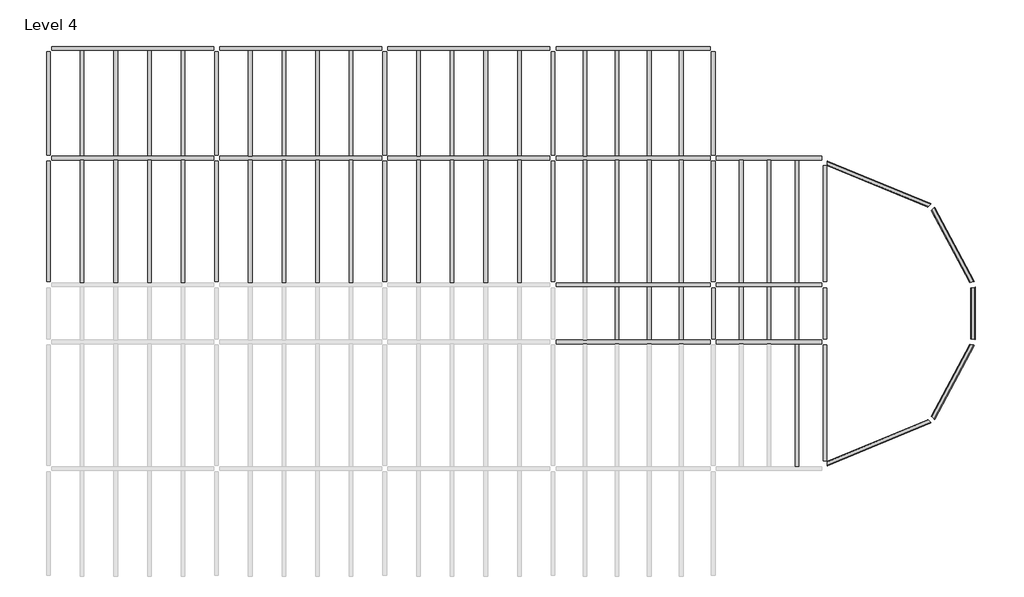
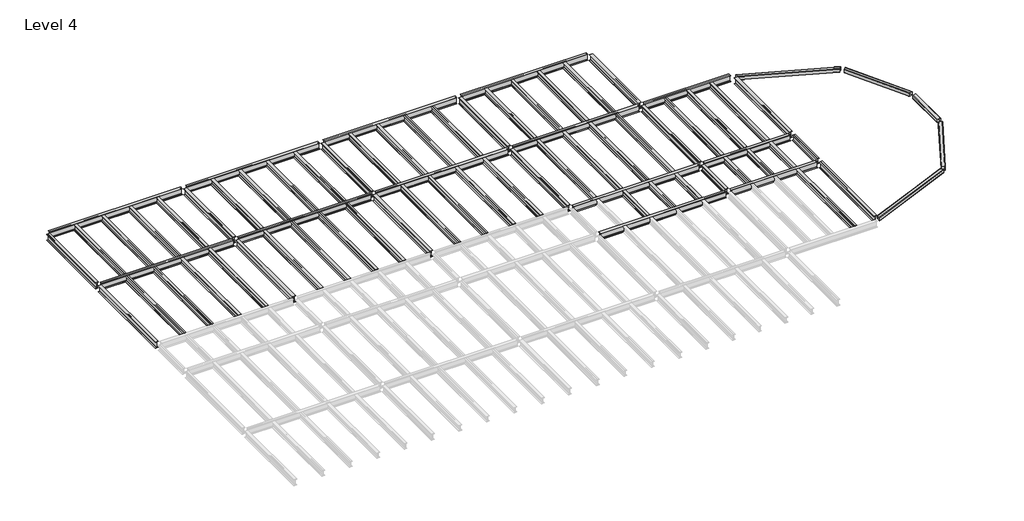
# One storey, part 2 of 2: 74 beams.
"""IFC4 building model written with IfcOpenShell, lengths in millimetres."""

from ifc_helpers import new_model, si_unit, origin, place, context, project, spatial, transform, mapped, element, save
from components import hss_square_hss8x8x3_8_81874951, hss_square_hss8x8x3_8_df46a162, hss_square_hss8x8x3_8_1cc8d9bf, hss_square_hss8x8x3_8_2c6f5ad9, w_shapes_w12x26_ac08b433, w_shapes_w12x26_80971791, w_shapes_w12x26_13ab2ca8, w_shapes_w12x26_1a00c8bd, w_shapes_w14x30_2b5df836, w_shapes_w14x30_7cdcd298, w_shapes_w14x30_aa676985, w_shapes_w14x30_0fa609c7, w_shapes_w14x30_8a2fed69, w_shapes_w14x30_0dffa004, w_shapes_w14x30_1dc52f8a

model = new_model("IFC4")

# Units and contexts
model_context = context("Model", 3, world=origin())
ifc_project = project(units=[si_unit("LENGTHUNIT", "METRE", prefix="MILLI")], contexts=[model_context])

# Site, building, storey
site = spatial("IfcSite", under=ifc_project)
building = spatial("IfcBuilding", under=site)
storey = spatial("IfcBuildingStorey", under=building, Name="Level 4", Elevation=10820.4)

# Beams
placement = place(None, origin())
hss_square_hss8x8x3_8_shape = hss_square_hss8x8x3_8_81874951(model_context)
element("IfcBeam", 1, ObjectType="HSS Square : HSS8X8X3/8", at=placement, inside=storey, context=model_context, shape_type="MappedRepresentation", body=[
    mapped(hss_square_hss8x8x3_8_shape, transform((17937.9339721, 4304.5648319, 10718.8), x_axis=(1.0, 0.0, 0.0), y_axis=(0.0, 1.0, 0.0), z_axis=(0.0, 0.0, 1.0))),
])
element("IfcBeam", 2, ObjectType="HSS Square : HSS8X8X3/8", at=placement, inside=storey, context=model_context, shape_type="MappedRepresentation", body=[
    mapped(hss_square_hss8x8x3_8_shape, transform((22753.596317, -7321.472513, 10718.8), x_axis=(-0.7071067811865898, -0.7071067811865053, 0.0), y_axis=(0.7071067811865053, -0.7071067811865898, 0.0), z_axis=(0.0, 0.0, 1.0))),
])
hss_square_hss8x8x3_8_2_shape = hss_square_hss8x8x3_8_df46a162(model_context)
element("IfcBeam", 3, ObjectType="HSS Square : HSS8X8X3/8", at=placement, inside=storey, context=model_context, shape_type="MappedRepresentation", body=[
    mapped(hss_square_hss8x8x3_8_2_shape, transform((22753.596317, 2309.8521769, 10718.8), x_axis=(0.7071067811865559, -0.7071067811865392, 0.0), y_axis=(0.7071067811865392, 0.7071067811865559, 0.0), z_axis=(0.0, 0.0, 1.0))),
])
hss_square_hss8x8x3_8_3_shape = hss_square_hss8x8x3_8_1cc8d9bf(model_context)
element("IfcBeam", 4, ObjectType="HSS Square : HSS8X8X3/8", at=placement, inside=storey, context=model_context, shape_type="MappedRepresentation", body=[
    mapped(hss_square_hss8x8x3_8_3_shape, transform((24623.6673698, -1208.8226681, 10718.8), x_axis=(0.19044289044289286, -0.9816982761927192, 0.0), y_axis=(0.9816982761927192, 0.19044289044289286, 0.0), z_axis=(0.0, 0.0, 1.0))),
])
hss_square_hss8x8x3_8_4_shape = hss_square_hss8x8x3_8_2c6f5ad9(model_context)
element("IfcBeam", 5, ObjectType="HSS Square : HSS8X8X3/8", at=placement, inside=storey, context=model_context, shape_type="MappedRepresentation", body=[
    mapped(hss_square_hss8x8x3_8_4_shape, transform((24623.6673698, -3802.7976681, 10718.8), x_axis=(-0.19044289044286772, -0.981698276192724, 0.0), y_axis=(0.981698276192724, -0.19044289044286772, 0.0), z_axis=(0.0, 0.0, 1.0))),
])
w_shapes_w12x26_shape = w_shapes_w12x26_ac08b433(model_context)
element("IfcBeam", 6, ObjectType="W Shapes : W12X26", at=placement, inside=storey, context=model_context, shape_type="MappedRepresentation", body=[
    mapped(w_shapes_w12x26_shape, transform((12884.9214721, -2505.8101681, 10665.46), x_axis=(0.0, -1.0, 0.0), y_axis=(1.0, 0.0, 0.0), z_axis=(0.0, 0.0, 1.0))),
])
element("IfcBeam", 7, ObjectType="W Shapes : W12X26", at=placement, inside=storey, context=model_context, shape_type="MappedRepresentation", body=[
    mapped(w_shapes_w12x26_shape, transform((17937.9339721, -2505.8101681, 10665.46), x_axis=(0.0, -1.0, 0.0), y_axis=(1.0, 0.0, 0.0), z_axis=(0.0, 0.0, 1.0))),
])
w_shapes_w12x26_2_shape = w_shapes_w12x26_80971791(model_context)
element("IfcBeam", 8, ObjectType="W Shapes : W12X26", at=placement, inside=storey, context=model_context, shape_type="MappedRepresentation", body=[
    mapped(w_shapes_w12x26_2_shape, transform((-15718.6535279, 7022.3648319, 10665.46), x_axis=(0.0, 1.0, 0.0), y_axis=(-1.0, 0.0, 0.0), z_axis=(0.0, 0.0, 1.0))),
])
element("IfcBeam", 9, ObjectType="W Shapes : W12X26", at=placement, inside=storey, context=model_context, shape_type="MappedRepresentation", body=[
    mapped(w_shapes_w12x26_2_shape, transform((-14194.6535279, 7022.3648319, 10665.46), x_axis=(0.0, 1.0, 0.0), y_axis=(-1.0, 0.0, 0.0), z_axis=(0.0, 0.0, 1.0))),
])
element("IfcBeam", 10, ObjectType="W Shapes : W12X26", at=placement, inside=storey, context=model_context, shape_type="MappedRepresentation", body=[
    mapped(w_shapes_w12x26_2_shape, transform((-12670.6535279, 7022.3648319, 10665.46), x_axis=(0.0, 1.0, 0.0), y_axis=(-1.0, 0.0, 0.0), z_axis=(0.0, 0.0, 1.0))),
])
element("IfcBeam", 11, ObjectType="W Shapes : W12X26", at=placement, inside=storey, context=model_context, shape_type="MappedRepresentation", body=[
    mapped(w_shapes_w12x26_2_shape, transform((-11146.6535279, 7022.3648319, 10665.46), x_axis=(0.0, 1.0, 0.0), y_axis=(-1.0, 0.0, 0.0), z_axis=(0.0, 0.0, 1.0))),
])
element("IfcBeam", 12, ObjectType="W Shapes : W12X26", at=placement, inside=storey, context=model_context, shape_type="MappedRepresentation", body=[
    mapped(w_shapes_w12x26_2_shape, transform((-3526.6535279, 7022.3648319, 10665.46), x_axis=(0.0, -1.0, 0.0), y_axis=(1.0, 0.0, 0.0), z_axis=(0.0, 0.0, 1.0))),
])
element("IfcBeam", 13, ObjectType="W Shapes : W12X26", at=placement, inside=storey, context=model_context, shape_type="MappedRepresentation", body=[
    mapped(w_shapes_w12x26_2_shape, transform((-5050.6535279, 7022.3648319, 10665.46), x_axis=(0.0, -1.0, 0.0), y_axis=(1.0, 0.0, 0.0), z_axis=(0.0, 0.0, 1.0))),
])
element("IfcBeam", 14, ObjectType="W Shapes : W12X26", at=placement, inside=storey, context=model_context, shape_type="MappedRepresentation", body=[
    mapped(w_shapes_w12x26_2_shape, transform((-6574.6535279, 7022.3648319, 10665.46), x_axis=(0.0, -1.0, 0.0), y_axis=(1.0, 0.0, 0.0), z_axis=(0.0, 0.0, 1.0))),
])
element("IfcBeam", 15, ObjectType="W Shapes : W12X26", at=placement, inside=storey, context=model_context, shape_type="MappedRepresentation", body=[
    mapped(w_shapes_w12x26_2_shape, transform((-8098.6535279, 7022.3648319, 10665.46), x_axis=(0.0, -1.0, 0.0), y_axis=(1.0, 0.0, 0.0), z_axis=(0.0, 0.0, 1.0))),
])
element("IfcBeam", 16, ObjectType="W Shapes : W12X26", at=placement, inside=storey, context=model_context, shape_type="MappedRepresentation", body=[
    mapped(w_shapes_w12x26_2_shape, transform((4093.3464721, 7022.3648319, 10665.46), x_axis=(0.0, -1.0, 0.0), y_axis=(1.0, 0.0, 0.0), z_axis=(0.0, 0.0, 1.0))),
])
element("IfcBeam", 17, ObjectType="W Shapes : W12X26", at=placement, inside=storey, context=model_context, shape_type="MappedRepresentation", body=[
    mapped(w_shapes_w12x26_2_shape, transform((2569.3464721, 7022.3648319, 10665.46), x_axis=(0.0, -1.0, 0.0), y_axis=(1.0, 0.0, 0.0), z_axis=(0.0, 0.0, 1.0))),
])
element("IfcBeam", 18, ObjectType="W Shapes : W12X26", at=placement, inside=storey, context=model_context, shape_type="MappedRepresentation", body=[
    mapped(w_shapes_w12x26_2_shape, transform((1045.3464721, 7022.3648319, 10665.46), x_axis=(0.0, -1.0, 0.0), y_axis=(1.0, 0.0, 0.0), z_axis=(0.0, 0.0, 1.0))),
])
element("IfcBeam", 19, ObjectType="W Shapes : W12X26", at=placement, inside=storey, context=model_context, shape_type="MappedRepresentation", body=[
    mapped(w_shapes_w12x26_2_shape, transform((-478.6535279, 7022.3648319, 10665.46), x_axis=(0.0, -1.0, 0.0), y_axis=(1.0, 0.0, 0.0), z_axis=(0.0, 0.0, 1.0))),
])
element("IfcBeam", 20, ObjectType="W Shapes : W12X26", at=placement, inside=storey, context=model_context, shape_type="MappedRepresentation", body=[
    mapped(w_shapes_w12x26_2_shape, transform((11431.4064721, 7022.3648319, 10665.46), x_axis=(0.0, -1.0, 0.0), y_axis=(1.0, 0.0, 0.0), z_axis=(0.0, 0.0, 1.0))),
])
element("IfcBeam", 21, ObjectType="W Shapes : W12X26", at=placement, inside=storey, context=model_context, shape_type="MappedRepresentation", body=[
    mapped(w_shapes_w12x26_2_shape, transform((9977.8914721, 7022.3648319, 10665.46), x_axis=(0.0, -1.0, 0.0), y_axis=(1.0, 0.0, 0.0), z_axis=(0.0, 0.0, 1.0))),
])
element("IfcBeam", 22, ObjectType="W Shapes : W12X26", at=placement, inside=storey, context=model_context, shape_type="MappedRepresentation", body=[
    mapped(w_shapes_w12x26_2_shape, transform((8524.3764721, 7022.3648319, 10665.46), x_axis=(0.0, -1.0, 0.0), y_axis=(1.0, 0.0, 0.0), z_axis=(0.0, 0.0, 1.0))),
])
element("IfcBeam", 23, ObjectType="W Shapes : W12X26", at=placement, inside=storey, context=model_context, shape_type="MappedRepresentation", body=[
    mapped(w_shapes_w12x26_2_shape, transform((7070.8614721, 7022.3648319, 10665.46), x_axis=(0.0, -1.0, 0.0), y_axis=(1.0, 0.0, 0.0), z_axis=(0.0, 0.0, 1.0))),
])
w_shapes_w12x26_3_shape = w_shapes_w12x26_13ab2ca8(model_context)
element("IfcBeam", 24, ObjectType="W Shapes : W12X26", at=placement, inside=storey, context=model_context, shape_type="MappedRepresentation", body=[
    mapped(w_shapes_w12x26_3_shape, transform((11431.4064721, 1662.9648319, 10665.46), x_axis=(0.0, -1.0, 0.0), y_axis=(1.0, 0.0, 0.0), z_axis=(0.0, 0.0, 1.0))),
])
element("IfcBeam", 25, ObjectType="W Shapes : W12X26", at=placement, inside=storey, context=model_context, shape_type="MappedRepresentation", body=[
    mapped(w_shapes_w12x26_3_shape, transform((9977.8914721, 1662.9648319, 10665.46), x_axis=(0.0, -1.0, 0.0), y_axis=(1.0, 0.0, 0.0), z_axis=(0.0, 0.0, 1.0))),
])
element("IfcBeam", 26, ObjectType="W Shapes : W12X26", at=placement, inside=storey, context=model_context, shape_type="MappedRepresentation", body=[
    mapped(w_shapes_w12x26_3_shape, transform((8524.3764721, 1662.9648319, 10665.46), x_axis=(0.0, -1.0, 0.0), y_axis=(1.0, 0.0, 0.0), z_axis=(0.0, 0.0, 1.0))),
])
element("IfcBeam", 27, ObjectType="W Shapes : W12X26", at=placement, inside=storey, context=model_context, shape_type="MappedRepresentation", body=[
    mapped(w_shapes_w12x26_3_shape, transform((7070.8614721, 1662.9648319, 10665.46), x_axis=(0.0, -1.0, 0.0), y_axis=(1.0, 0.0, 0.0), z_axis=(0.0, 0.0, 1.0))),
])
element("IfcBeam", 28, ObjectType="W Shapes : W12X26", at=placement, inside=storey, context=model_context, shape_type="MappedRepresentation", body=[
    mapped(w_shapes_w12x26_3_shape, transform((4093.3464721, 1662.9648319, 10665.46), x_axis=(0.0, -1.0, 0.0), y_axis=(1.0, 0.0, 0.0), z_axis=(0.0, 0.0, 1.0))),
])
element("IfcBeam", 29, ObjectType="W Shapes : W12X26", at=placement, inside=storey, context=model_context, shape_type="MappedRepresentation", body=[
    mapped(w_shapes_w12x26_3_shape, transform((2569.3464721, 1662.9648319, 10665.46), x_axis=(0.0, -1.0, 0.0), y_axis=(1.0, 0.0, 0.0), z_axis=(0.0, 0.0, 1.0))),
])
element("IfcBeam", 30, ObjectType="W Shapes : W12X26", at=placement, inside=storey, context=model_context, shape_type="MappedRepresentation", body=[
    mapped(w_shapes_w12x26_3_shape, transform((1045.3464721, 1662.9648319, 10665.46), x_axis=(0.0, -1.0, 0.0), y_axis=(1.0, 0.0, 0.0), z_axis=(0.0, 0.0, 1.0))),
])
element("IfcBeam", 31, ObjectType="W Shapes : W12X26", at=placement, inside=storey, context=model_context, shape_type="MappedRepresentation", body=[
    mapped(w_shapes_w12x26_3_shape, transform((-478.6535279, 1662.9648319, 10665.46), x_axis=(0.0, -1.0, 0.0), y_axis=(1.0, 0.0, 0.0), z_axis=(0.0, 0.0, 1.0))),
])
element("IfcBeam", 32, ObjectType="W Shapes : W12X26", at=placement, inside=storey, context=model_context, shape_type="MappedRepresentation", body=[
    mapped(w_shapes_w12x26_3_shape, transform((-3526.6535279, 1662.9648319, 10665.46), x_axis=(0.0, -1.0, 0.0), y_axis=(1.0, 0.0, 0.0), z_axis=(0.0, 0.0, 1.0))),
])
element("IfcBeam", 33, ObjectType="W Shapes : W12X26", at=placement, inside=storey, context=model_context, shape_type="MappedRepresentation", body=[
    mapped(w_shapes_w12x26_3_shape, transform((-5050.6535279, 1662.9648319, 10665.46), x_axis=(0.0, -1.0, 0.0), y_axis=(1.0, 0.0, 0.0), z_axis=(0.0, 0.0, 1.0))),
])
element("IfcBeam", 34, ObjectType="W Shapes : W12X26", at=placement, inside=storey, context=model_context, shape_type="MappedRepresentation", body=[
    mapped(w_shapes_w12x26_3_shape, transform((-6574.6535279, 1662.9648319, 10665.46), x_axis=(0.0, -1.0, 0.0), y_axis=(1.0, 0.0, 0.0), z_axis=(0.0, 0.0, 1.0))),
])
element("IfcBeam", 35, ObjectType="W Shapes : W12X26", at=placement, inside=storey, context=model_context, shape_type="MappedRepresentation", body=[
    mapped(w_shapes_w12x26_3_shape, transform((-8098.6535279, 1662.9648319, 10665.46), x_axis=(0.0, -1.0, 0.0), y_axis=(1.0, 0.0, 0.0), z_axis=(0.0, 0.0, 1.0))),
])
element("IfcBeam", 36, ObjectType="W Shapes : W12X26", at=placement, inside=storey, context=model_context, shape_type="MappedRepresentation", body=[
    mapped(w_shapes_w12x26_3_shape, transform((-15718.6535279, 1662.9648319, 10665.46), x_axis=(0.0, 1.0, 0.0), y_axis=(-1.0, 0.0, 0.0), z_axis=(0.0, 0.0, 1.0))),
])
element("IfcBeam", 37, ObjectType="W Shapes : W12X26", at=placement, inside=storey, context=model_context, shape_type="MappedRepresentation", body=[
    mapped(w_shapes_w12x26_3_shape, transform((-14194.6535279, 1662.9648319, 10665.46), x_axis=(0.0, 1.0, 0.0), y_axis=(-1.0, 0.0, 0.0), z_axis=(0.0, 0.0, 1.0))),
])
element("IfcBeam", 38, ObjectType="W Shapes : W12X26", at=placement, inside=storey, context=model_context, shape_type="MappedRepresentation", body=[
    mapped(w_shapes_w12x26_3_shape, transform((-12670.6535279, 1662.9648319, 10665.46), x_axis=(0.0, 1.0, 0.0), y_axis=(-1.0, 0.0, 0.0), z_axis=(0.0, 0.0, 1.0))),
])
element("IfcBeam", 39, ObjectType="W Shapes : W12X26", at=placement, inside=storey, context=model_context, shape_type="MappedRepresentation", body=[
    mapped(w_shapes_w12x26_3_shape, transform((-11146.6535279, 1662.9648319, 10665.46), x_axis=(0.0, 1.0, 0.0), y_axis=(-1.0, 0.0, 0.0), z_axis=(0.0, 0.0, 1.0))),
])
element("IfcBeam", 40, ObjectType="W Shapes : W12X26", at=placement, inside=storey, context=model_context, shape_type="MappedRepresentation", body=[
    mapped(w_shapes_w12x26_3_shape, transform((16674.6808471, 1662.9648319, 10665.46), x_axis=(0.0, -1.0, 0.0), y_axis=(1.0, 0.0, 0.0), z_axis=(0.0, 0.0, 1.0))),
])
element("IfcBeam", 41, ObjectType="W Shapes : W12X26", at=placement, inside=storey, context=model_context, shape_type="MappedRepresentation", body=[
    mapped(w_shapes_w12x26_3_shape, transform((15411.4277221, 1662.9648319, 10665.46), x_axis=(0.0, -1.0, 0.0), y_axis=(1.0, 0.0, 0.0), z_axis=(0.0, 0.0, 1.0))),
])
element("IfcBeam", 42, ObjectType="W Shapes : W12X26", at=placement, inside=storey, context=model_context, shape_type="MappedRepresentation", body=[
    mapped(w_shapes_w12x26_3_shape, transform((14148.1745971, 1662.9648319, 10665.46), x_axis=(0.0, -1.0, 0.0), y_axis=(1.0, 0.0, 0.0), z_axis=(0.0, 0.0, 1.0))),
])
element("IfcBeam", 43, ObjectType="W Shapes : W12X26", at=placement, inside=storey, context=model_context, shape_type="MappedRepresentation", body=[
    mapped(w_shapes_w12x26_3_shape, transform((16674.6808471, -6674.5851681, 10665.46), x_axis=(0.0, 1.0, 0.0), y_axis=(-1.0, 0.0, 0.0), z_axis=(0.0, 0.0, 1.0))),
])
w_shapes_w12x26_4_shape = w_shapes_w12x26_1a00c8bd(model_context)
element("IfcBeam", 44, ObjectType="W Shapes : W12X26", at=placement, inside=storey, context=model_context, shape_type="MappedRepresentation", body=[
    mapped(w_shapes_w12x26_4_shape, transform((11431.4064721, -2505.8101681, 10665.46), x_axis=(0.0, -1.0, 0.0), y_axis=(1.0, 0.0, 0.0), z_axis=(0.0, 0.0, 1.0))),
])
element("IfcBeam", 45, ObjectType="W Shapes : W12X26", at=placement, inside=storey, context=model_context, shape_type="MappedRepresentation", body=[
    mapped(w_shapes_w12x26_4_shape, transform((9977.8914721, -2505.8101681, 10665.46), x_axis=(0.0, -1.0, 0.0), y_axis=(1.0, 0.0, 0.0), z_axis=(0.0, 0.0, 1.0))),
])
element("IfcBeam", 46, ObjectType="W Shapes : W12X26", at=placement, inside=storey, context=model_context, shape_type="MappedRepresentation", body=[
    mapped(w_shapes_w12x26_4_shape, transform((8524.3764721, -2505.8101681, 10665.46), x_axis=(0.0, -1.0, 0.0), y_axis=(1.0, 0.0, 0.0), z_axis=(0.0, 0.0, 1.0))),
])
element("IfcBeam", 47, ObjectType="W Shapes : W12X26", at=placement, inside=storey, context=model_context, shape_type="MappedRepresentation", body=[
    mapped(w_shapes_w12x26_4_shape, transform((16674.6808471, -2505.8101681, 10665.46), x_axis=(0.0, -1.0, 0.0), y_axis=(1.0, 0.0, 0.0), z_axis=(0.0, 0.0, 1.0))),
])
element("IfcBeam", 48, ObjectType="W Shapes : W12X26", at=placement, inside=storey, context=model_context, shape_type="MappedRepresentation", body=[
    mapped(w_shapes_w12x26_4_shape, transform((15411.4277221, -2505.8101681, 10665.46), x_axis=(0.0, -1.0, 0.0), y_axis=(1.0, 0.0, 0.0), z_axis=(0.0, 0.0, 1.0))),
])
element("IfcBeam", 49, ObjectType="W Shapes : W12X26", at=placement, inside=storey, context=model_context, shape_type="MappedRepresentation", body=[
    mapped(w_shapes_w12x26_4_shape, transform((14148.1745971, -2505.8101681, 10665.46), x_axis=(0.0, -1.0, 0.0), y_axis=(1.0, 0.0, 0.0), z_axis=(0.0, 0.0, 1.0))),
])
w_shapes_w14x30_shape = w_shapes_w14x30_2b5df836(model_context)
element("IfcBeam", 50, ObjectType="W Shapes : W14X30", at=placement, inside=storey, context=model_context, shape_type="MappedRepresentation", body=[
    mapped(w_shapes_w14x30_shape, transform((-13432.6535279, 9509.9773319, 10645.14), x_axis=(1.0, 0.0, 0.0), y_axis=(0.0, 1.0, 0.0), z_axis=(0.0, 0.0, 1.0))),
])
element("IfcBeam", 51, ObjectType="W Shapes : W14X30", at=placement, inside=storey, context=model_context, shape_type="MappedRepresentation", body=[
    mapped(w_shapes_w14x30_shape, transform((-5812.6535279, 9509.9773319, 10645.14), x_axis=(1.0, 0.0, 0.0), y_axis=(0.0, 1.0, 0.0), z_axis=(0.0, 0.0, 1.0))),
])
element("IfcBeam", 52, ObjectType="W Shapes : W14X30", at=placement, inside=storey, context=model_context, shape_type="MappedRepresentation", body=[
    mapped(w_shapes_w14x30_shape, transform((1807.3464721, 9509.9773319, 10645.14), x_axis=(1.0, 0.0, 0.0), y_axis=(0.0, 1.0, 0.0), z_axis=(0.0, 0.0, 1.0))),
])
element("IfcBeam", 53, ObjectType="W Shapes : W14X30", at=placement, inside=storey, context=model_context, shape_type="MappedRepresentation", body=[
    mapped(w_shapes_w14x30_shape, transform((1807.3464721, 4534.7523319, 10645.14), x_axis=(-1.0, 0.0, 0.0), y_axis=(0.0, -1.0, 0.0), z_axis=(0.0, 0.0, 1.0))),
])
element("IfcBeam", 54, ObjectType="W Shapes : W14X30", at=placement, inside=storey, context=model_context, shape_type="MappedRepresentation", body=[
    mapped(w_shapes_w14x30_shape, transform((-5812.6535279, 4534.7523319, 10645.14), x_axis=(-1.0, 0.0, 0.0), y_axis=(0.0, -1.0, 0.0), z_axis=(0.0, 0.0, 1.0))),
])
element("IfcBeam", 55, ObjectType="W Shapes : W14X30", at=placement, inside=storey, context=model_context, shape_type="MappedRepresentation", body=[
    mapped(w_shapes_w14x30_shape, transform((-13432.6535279, 4534.7523319, 10645.14), x_axis=(-1.0, 0.0, 0.0), y_axis=(0.0, -1.0, 0.0), z_axis=(0.0, 0.0, 1.0))),
])
w_shapes_w14x30_2_shape = w_shapes_w14x30_7cdcd298(model_context)
element("IfcBeam", 56, ObjectType="W Shapes : W14X30", at=placement, inside=storey, context=model_context, shape_type="MappedRepresentation", body=[
    mapped(w_shapes_w14x30_2_shape, transform((9251.1339721, 9509.9773319, 10645.14), x_axis=(1.0, 0.0, 0.0), y_axis=(0.0, 1.0, 0.0), z_axis=(0.0, 0.0, 1.0))),
])
element("IfcBeam", 57, ObjectType="W Shapes : W14X30", at=placement, inside=storey, context=model_context, shape_type="MappedRepresentation", body=[
    mapped(w_shapes_w14x30_2_shape, transform((9251.1339721, -1208.8226681, 10645.14), x_axis=(-1.0, 0.0, 0.0), y_axis=(0.0, -1.0, 0.0), z_axis=(0.0, 0.0, 1.0))),
])
element("IfcBeam", 58, ObjectType="W Shapes : W14X30", at=placement, inside=storey, context=model_context, shape_type="MappedRepresentation", body=[
    mapped(w_shapes_w14x30_2_shape, transform((9251.1339721, 4534.7523319, 10645.14), x_axis=(-1.0, 0.0, 0.0), y_axis=(0.0, -1.0, 0.0), z_axis=(0.0, 0.0, 1.0))),
])
element("IfcBeam", 59, ObjectType="W Shapes : W14X30", at=placement, inside=storey, context=model_context, shape_type="MappedRepresentation", body=[
    mapped(w_shapes_w14x30_2_shape, transform((9251.1339721, -3802.7976681, 10645.14), x_axis=(1.0, 0.0, 0.0), y_axis=(0.0, 1.0, 0.0), z_axis=(0.0, 0.0, 1.0))),
])
w_shapes_w14x30_3_shape = w_shapes_w14x30_aa676985(model_context)
element("IfcBeam", 60, ObjectType="W Shapes : W14X30", at=placement, inside=storey, context=model_context, shape_type="MappedRepresentation", body=[
    mapped(w_shapes_w14x30_3_shape, transform((12884.9214721, 7022.3648319, 10645.14), x_axis=(0.0, -1.0, 0.0), y_axis=(1.0, 0.0, 0.0), z_axis=(0.0, 0.0, 1.0))),
])
element("IfcBeam", 61, ObjectType="W Shapes : W14X30", at=placement, inside=storey, context=model_context, shape_type="MappedRepresentation", body=[
    mapped(w_shapes_w14x30_3_shape, transform((-17242.6535279, 7022.3648319, 10645.14), x_axis=(0.0, 1.0, 0.0), y_axis=(-1.0, 0.0, 0.0), z_axis=(0.0, 0.0, 1.0))),
])
element("IfcBeam", 62, ObjectType="W Shapes : W14X30", at=placement, inside=storey, context=model_context, shape_type="MappedRepresentation", body=[
    mapped(w_shapes_w14x30_3_shape, transform((-9622.6535279, 7022.3648319, 10645.14), x_axis=(0.0, -1.0, 0.0), y_axis=(1.0, 0.0, 0.0), z_axis=(0.0, 0.0, 1.0))),
])
element("IfcBeam", 63, ObjectType="W Shapes : W14X30", at=placement, inside=storey, context=model_context, shape_type="MappedRepresentation", body=[
    mapped(w_shapes_w14x30_3_shape, transform((-2002.6535279, 7022.3648319, 10645.14), x_axis=(0.0, -1.0, 0.0), y_axis=(1.0, 0.0, 0.0), z_axis=(0.0, 0.0, 1.0))),
])
element("IfcBeam", 64, ObjectType="W Shapes : W14X30", at=placement, inside=storey, context=model_context, shape_type="MappedRepresentation", body=[
    mapped(w_shapes_w14x30_3_shape, transform((5617.3464721, 7022.3648319, 10645.14), x_axis=(0.0, -1.0, 0.0), y_axis=(1.0, 0.0, 0.0), z_axis=(0.0, 0.0, 1.0))),
])
w_shapes_w14x30_4_shape = w_shapes_w14x30_0fa609c7(model_context)
element("IfcBeam", 65, ObjectType="W Shapes : W14X30", at=placement, inside=storey, context=model_context, shape_type="MappedRepresentation", body=[
    mapped(w_shapes_w14x30_4_shape, transform((15411.4277221, 4534.7523319, 10645.14), x_axis=(1.0, 0.0, 0.0), y_axis=(0.0, 1.0, 0.0), z_axis=(0.0, 0.0, 1.0))),
])
element("IfcBeam", 66, ObjectType="W Shapes : W14X30", at=placement, inside=storey, context=model_context, shape_type="MappedRepresentation", body=[
    mapped(w_shapes_w14x30_4_shape, transform((15411.4277221, -1208.8226681, 10645.14), x_axis=(-1.0, 0.0, 0.0), y_axis=(0.0, -1.0, 0.0), z_axis=(0.0, 0.0, 1.0))),
])
element("IfcBeam", 67, ObjectType="W Shapes : W14X30", at=placement, inside=storey, context=model_context, shape_type="MappedRepresentation", body=[
    mapped(w_shapes_w14x30_4_shape, transform((15411.4277221, -3802.7976681, 10645.14), x_axis=(1.0, 0.0, 0.0), y_axis=(0.0, 1.0, 0.0), z_axis=(0.0, 0.0, 1.0))),
])
w_shapes_w14x30_5_shape = w_shapes_w14x30_8a2fed69(model_context)
element("IfcBeam", 68, ObjectType="W Shapes : W14X30", at=placement, inside=storey, context=model_context, shape_type="MappedRepresentation", body=[
    mapped(w_shapes_w14x30_5_shape, transform((17937.9339721, 1547.8710819, 10645.14), x_axis=(0.0, -1.0, 0.0), y_axis=(1.0, 0.0, 0.0), z_axis=(0.0, 0.0, 1.0))),
])
w_shapes_w14x30_6_shape = w_shapes_w14x30_0dffa004(model_context)
element("IfcBeam", 69, ObjectType="W Shapes : W14X30", at=placement, inside=storey, context=model_context, shape_type="MappedRepresentation", body=[
    mapped(w_shapes_w14x30_6_shape, transform((-17242.6535279, 1662.9648319, 10645.14), x_axis=(0.0, 1.0, 0.0), y_axis=(-1.0, 0.0, 0.0), z_axis=(0.0, 0.0, 1.0))),
])
element("IfcBeam", 70, ObjectType="W Shapes : W14X30", at=placement, inside=storey, context=model_context, shape_type="MappedRepresentation", body=[
    mapped(w_shapes_w14x30_6_shape, transform((-9622.6535279, 1662.9648319, 10645.14), x_axis=(0.0, -1.0, 0.0), y_axis=(1.0, 0.0, 0.0), z_axis=(0.0, 0.0, 1.0))),
])
element("IfcBeam", 71, ObjectType="W Shapes : W14X30", at=placement, inside=storey, context=model_context, shape_type="MappedRepresentation", body=[
    mapped(w_shapes_w14x30_6_shape, transform((-2002.6535279, 1662.9648319, 10645.14), x_axis=(0.0, -1.0, 0.0), y_axis=(1.0, 0.0, 0.0), z_axis=(0.0, 0.0, 1.0))),
])
element("IfcBeam", 72, ObjectType="W Shapes : W14X30", at=placement, inside=storey, context=model_context, shape_type="MappedRepresentation", body=[
    mapped(w_shapes_w14x30_6_shape, transform((5617.3464721, 1662.9648319, 10645.14), x_axis=(0.0, -1.0, 0.0), y_axis=(1.0, 0.0, 0.0), z_axis=(0.0, 0.0, 1.0))),
])
element("IfcBeam", 73, ObjectType="W Shapes : W14X30", at=placement, inside=storey, context=model_context, shape_type="MappedRepresentation", body=[
    mapped(w_shapes_w14x30_6_shape, transform((12884.9214721, 1662.9648319, 10645.14), x_axis=(0.0, -1.0, 0.0), y_axis=(1.0, 0.0, 0.0), z_axis=(0.0, 0.0, 1.0))),
])
w_shapes_w14x30_7_shape = w_shapes_w14x30_1dc52f8a(model_context)
element("IfcBeam", 74, ObjectType="W Shapes : W14X30", at=placement, inside=storey, context=model_context, shape_type="MappedRepresentation", body=[
    mapped(w_shapes_w14x30_7_shape, transform((17937.9339721, -6559.4914181, 10645.14), x_axis=(0.0, -1.0, 0.0), y_axis=(1.0, 0.0, 0.0), z_axis=(0.0, 0.0, 1.0))),
])

save(model, "model.ifc")
